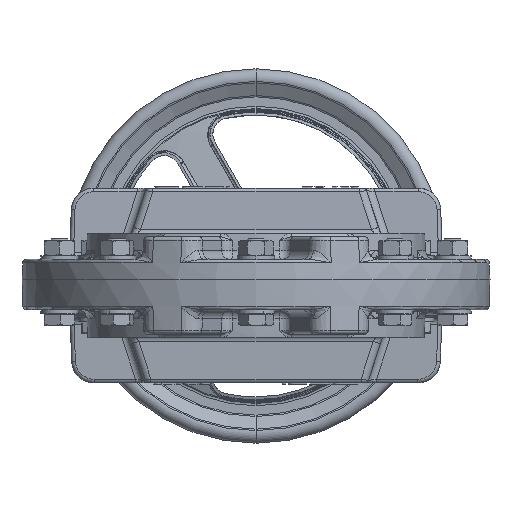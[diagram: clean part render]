
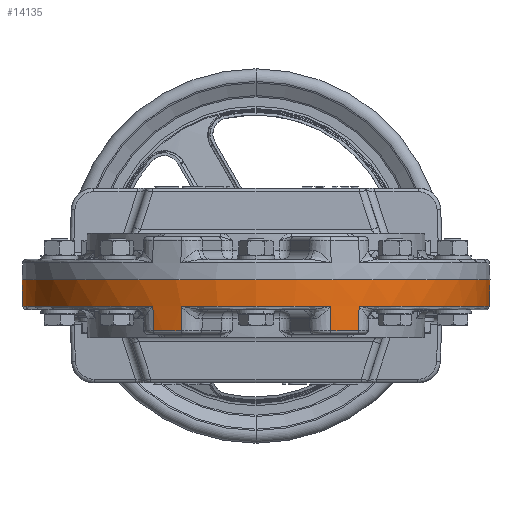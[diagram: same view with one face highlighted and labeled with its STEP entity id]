
A CAD part, front view. The second image highlights one B-rep face of the part: STEP entity #14135.
In plain terms, the highlighted conical face has half-angle 2 degrees and reference radius 125 mm.
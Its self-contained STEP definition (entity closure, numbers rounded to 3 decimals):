
#672 = DIRECTION ( 'NONE',  ( 0.035, 0., 0.999 ) ) ;
#2323 = AXIS2_PLACEMENT_3D ( 'NONE', #96229, #41763, #105361 ) ;
#4370 = EDGE_CURVE ( 'NONE', #46894, #44196, #105352, .T. ) ;
#4627 = ORIENTED_EDGE ( 'NONE', *, *, #79638, .T. ) ;
#5256 = CARTESIAN_POINT ( 'NONE',  ( 0., 0., 0. ) ) ;
#5386 = VECTOR ( 'NONE', #57390, 1000. ) ;
#10734 = LINE ( 'NONE', #38861, #80276 ) ;
#11547 = EDGE_LOOP ( 'NONE', ( #55814, #81306, #106650, #35669, #49827, #82631, #84153, #4627, #85611, #16055, #52558, #42695 ) ) ;
#11630 = VERTEX_POINT ( 'NONE', #66417 ) ;
#13108 = CARTESIAN_POINT ( 'NONE',  ( -55.048, -111.679, -14.07 ) ) ;
#14135 = ADVANCED_FACE ( 'NONE', ( #58069 ), #92231, .T. ) ;
#16055 = ORIENTED_EDGE ( 'NONE', *, *, #24928, .F. ) ;
#17088 = CARTESIAN_POINT ( 'NONE',  ( 54.847, -111.271, -27.07 ) ) ;
#18307 = DIRECTION ( 'NONE',  ( 0., 0., 1. ) ) ;
#18464 = AXIS2_PLACEMENT_3D ( 'NONE', #5256, #95743, #59911 ) ;
#18562 = VERTEX_POINT ( 'NONE', #99245 ) ;
#20068 = CIRCLE ( 'NONE', #79054, 124.509 ) ;
#20612 = CARTESIAN_POINT ( 'NONE',  ( 55.048, -111.679, -14.07 ) ) ;
#21168 = CARTESIAN_POINT ( 'NONE',  ( -54.847, -111.271, -27.07 ) ) ;
#21919 = VECTOR ( 'NONE', #88681, 1000. ) ;
#24928 = EDGE_CURVE ( 'NONE', #18562, #70102, #101942, .T. ) ;
#31246 = AXIS2_PLACEMENT_3D ( 'NONE', #32935, #96448, #41996 ) ;
#32935 = CARTESIAN_POINT ( 'NONE',  ( 0., 0., -27.07 ) ) ;
#35669 = ORIENTED_EDGE ( 'NONE', *, *, #38577, .F. ) ;
#35730 = VECTOR ( 'NONE', #49496, 1000. ) ;
#38577 = EDGE_CURVE ( 'NONE', #90779, #110273, #10734, .T. ) ;
#38861 = CARTESIAN_POINT ( 'NONE',  ( -125., 0., 0. ) ) ;
#39184 = CARTESIAN_POINT ( 'NONE',  ( 40.202, -118.359, 0. ) ) ;
#41044 = CARTESIAN_POINT ( 'NONE',  ( 0., 0., 0. ) ) ;
#41763 = DIRECTION ( 'NONE',  ( 0., 0., 1. ) ) ;
#41996 = DIRECTION ( 'NONE',  ( 1., 0., 0. ) ) ;
#42695 = ORIENTED_EDGE ( 'NONE', *, *, #51363, .T. ) ;
#44019 = VERTEX_POINT ( 'NONE', #45582 ) ;
#44196 = VERTEX_POINT ( 'NONE', #13108 ) ;
#44627 = EDGE_CURVE ( 'NONE', #108218, #110273, #85920, .T. ) ;
#45582 = CARTESIAN_POINT ( 'NONE',  ( -39.898, -117.464, -27.07 ) ) ;
#45920 = LINE ( 'NONE', #70341, #21919 ) ;
#46146 = LINE ( 'NONE', #64022, #67427 ) ;
#46894 = VERTEX_POINT ( 'NONE', #21168 ) ;
#49075 = DIRECTION ( 'NONE',  ( 0., 0., 1. ) ) ;
#49496 = DIRECTION ( 'NONE',  ( -0.015, -0.031, 0.999 ) ) ;
#49827 = ORIENTED_EDGE ( 'NONE', *, *, #52929, .T. ) ;
#50134 = DIRECTION ( 'NONE',  ( -1., 0., 0. ) ) ;
#51363 = EDGE_CURVE ( 'NONE', #97710, #103207, #45920, .T. ) ;
#51500 = DIRECTION ( 'NONE',  ( 0., 0., 1. ) ) ;
#51931 = AXIS2_PLACEMENT_3D ( 'NONE', #41044, #104606, #50134 ) ;
#52245 = CARTESIAN_POINT ( 'NONE',  ( -124.509, 0., -14.07 ) ) ;
#52558 = ORIENTED_EDGE ( 'NONE', *, *, #87958, .T. ) ;
#52929 = EDGE_CURVE ( 'NONE', #90779, #44196, #20068, .T. ) ;
#55814 = ORIENTED_EDGE ( 'NONE', *, *, #87258, .T. ) ;
#56681 = DIRECTION ( 'NONE',  ( -0.035, 0., 0.999 ) ) ;
#57390 = DIRECTION ( 'NONE',  ( 0.011, -0.033, 0.999 ) ) ;
#58069 = FACE_OUTER_BOUND ( 'NONE', #11547, .T. ) ;
#59911 = DIRECTION ( 'NONE',  ( -1., 0., 0. ) ) ;
#60071 = AXIS2_PLACEMENT_3D ( 'NONE', #72547, #18307, #81738 ) ;
#64022 = CARTESIAN_POINT ( 'NONE',  ( 125., 0., 0. ) ) ;
#65092 = CARTESIAN_POINT ( 'NONE',  ( 124.509, 0., -14.07 ) ) ;
#65703 = CARTESIAN_POINT ( 'NONE',  ( -125., 0., 0. ) ) ;
#66417 = CARTESIAN_POINT ( 'NONE',  ( -40.044, -117.894, -14.07 ) ) ;
#66845 = VECTOR ( 'NONE', #84876, 1000. ) ;
#67427 = VECTOR ( 'NONE', #672, 1000. ) ;
#70102 = VERTEX_POINT ( 'NONE', #88343 ) ;
#70341 = CARTESIAN_POINT ( 'NONE',  ( 55.265, -112.119, 0. ) ) ;
#72547 = CARTESIAN_POINT ( 'NONE',  ( 0., 0., -27.07 ) ) ;
#73468 = EDGE_CURVE ( 'NONE', #11630, #70102, #101909, .T. ) ;
#75340 = CARTESIAN_POINT ( 'NONE',  ( -40.202, -118.359, 0. ) ) ;
#78255 = VERTEX_POINT ( 'NONE', #65092 ) ;
#79054 = AXIS2_PLACEMENT_3D ( 'NONE', #103560, #49075, #112736 ) ;
#79638 = EDGE_CURVE ( 'NONE', #44019, #11630, #91049, .T. ) ;
#80276 = VECTOR ( 'NONE', #56681, 1000. ) ;
#81022 = CARTESIAN_POINT ( 'NONE',  ( 125., 0., 0. ) ) ;
#81180 = EDGE_CURVE ( 'NONE', #78255, #108218, #46146, .T. ) ;
#81306 = ORIENTED_EDGE ( 'NONE', *, *, #81180, .T. ) ;
#81738 = DIRECTION ( 'NONE',  ( 1., 0., 0. ) ) ;
#82631 = ORIENTED_EDGE ( 'NONE', *, *, #4370, .F. ) ;
#84153 = ORIENTED_EDGE ( 'NONE', *, *, #110040, .T. ) ;
#84876 = DIRECTION ( 'NONE',  ( -0.011, -0.033, 0.999 ) ) ;
#85611 = ORIENTED_EDGE ( 'NONE', *, *, #73468, .T. ) ;
#85920 = CIRCLE ( 'NONE', #51931, 125. ) ;
#87258 = EDGE_CURVE ( 'NONE', #103207, #78255, #90826, .T. ) ;
#87958 = EDGE_CURVE ( 'NONE', #18562, #97710, #114685, .T. ) ;
#88343 = CARTESIAN_POINT ( 'NONE',  ( 40.044, -117.894, -14.07 ) ) ;
#88681 = DIRECTION ( 'NONE',  ( 0.015, -0.031, 0.999 ) ) ;
#90779 = VERTEX_POINT ( 'NONE', #52245 ) ;
#90826 = CIRCLE ( 'NONE', #2323, 124.509 ) ;
#91049 = LINE ( 'NONE', #75340, #66845 ) ;
#92231 = CONICAL_SURFACE ( 'NONE', #18464, 125., 0.035 ) ;
#92677 = AXIS2_PLACEMENT_3D ( 'NONE', #105957, #51500, #115133 ) ;
#95743 = DIRECTION ( 'NONE',  ( 0., 0., 1. ) ) ;
#96229 = CARTESIAN_POINT ( 'NONE',  ( 0., 0., -14.07 ) ) ;
#96448 = DIRECTION ( 'NONE',  ( 0., 0., 1. ) ) ;
#97710 = VERTEX_POINT ( 'NONE', #17088 ) ;
#99245 = CARTESIAN_POINT ( 'NONE',  ( 39.898, -117.464, -27.07 ) ) ;
#99839 = CIRCLE ( 'NONE', #31246, 124.055 ) ;
#101909 = CIRCLE ( 'NONE', #92677, 124.509 ) ;
#101942 = LINE ( 'NONE', #39184, #5386 ) ;
#103207 = VERTEX_POINT ( 'NONE', #20612 ) ;
#103560 = CARTESIAN_POINT ( 'NONE',  ( 0., 0., -14.07 ) ) ;
#103991 = CARTESIAN_POINT ( 'NONE',  ( -55.265, -112.119, 0. ) ) ;
#104606 = DIRECTION ( 'NONE',  ( 0., 0., -1. ) ) ;
#105352 = LINE ( 'NONE', #103991, #35730 ) ;
#105361 = DIRECTION ( 'NONE',  ( 1., 0., 0. ) ) ;
#105957 = CARTESIAN_POINT ( 'NONE',  ( 0., 0., -14.07 ) ) ;
#106650 = ORIENTED_EDGE ( 'NONE', *, *, #44627, .T. ) ;
#108218 = VERTEX_POINT ( 'NONE', #81022 ) ;
#110040 = EDGE_CURVE ( 'NONE', #46894, #44019, #99839, .T. ) ;
#110273 = VERTEX_POINT ( 'NONE', #65703 ) ;
#112736 = DIRECTION ( 'NONE',  ( 1., 0., 0. ) ) ;
#114685 = CIRCLE ( 'NONE', #60071, 124.055 ) ;
#115133 = DIRECTION ( 'NONE',  ( 1., 0., 0. ) ) ;
